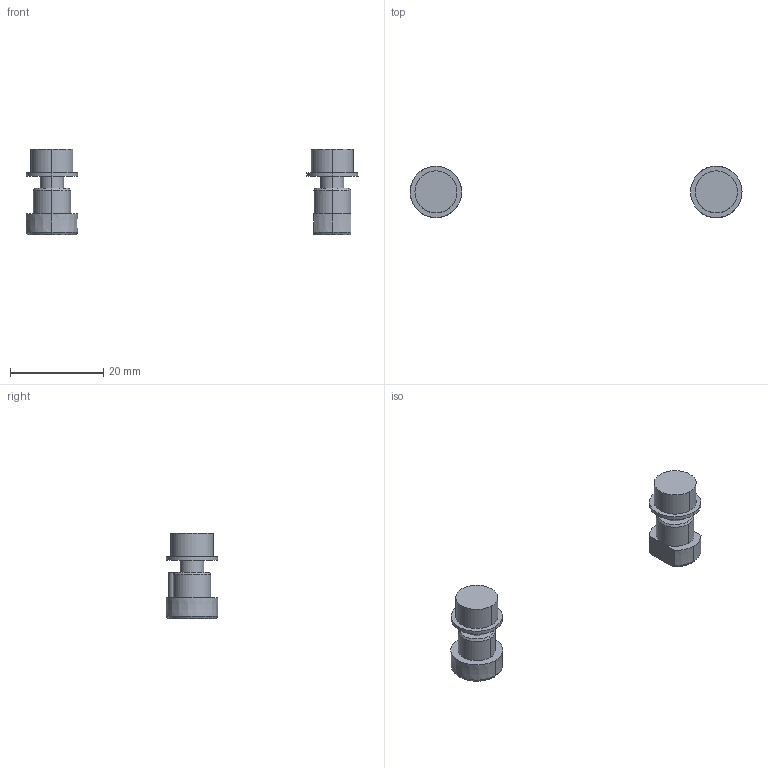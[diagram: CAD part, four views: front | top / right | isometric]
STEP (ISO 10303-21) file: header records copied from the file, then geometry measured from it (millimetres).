
FILE_DESCRIPTION(('CATIA V5 STEP Exchange'),'2;1');
FILE_NAME('\\192.168.2.253\vorns\技术部\03-技术资料\03-产品数模\02、抓具\STP\EGT213.stp','2017-10-18T02:12:27+00:00',('none'),('none'),'CATIA Version 5 Release 21 GA (IN-10)','CATIA V5 STEP AP203','none');
FILE_SCHEMA(('CONFIG_CONTROL_DESIGN'));
Length unit declared in the file: millimetre
Products named in the file (1): EGT_213
Bounding box: 71.05 x 11.1 x 18.3 mm (x, y, z)
Volume: 2278.4 mm3; surface area: 2627.4 mm2
Topology: 9 solids, 9 shells, 68 faces, 148 edges, 95 vertices
Faces by surface type: cylinder 30, plane 22, cone 16
Entity records: 1986 total; most frequent: CARTESIAN_POINT 562, ORIENTED_EDGE 280, DIRECTION 239, EDGE_CURVE 140, AXIS2_PLACEMENT_3D 130, VERTEX_POINT 91, EDGE_LOOP 81, ADVANCED_FACE 68
